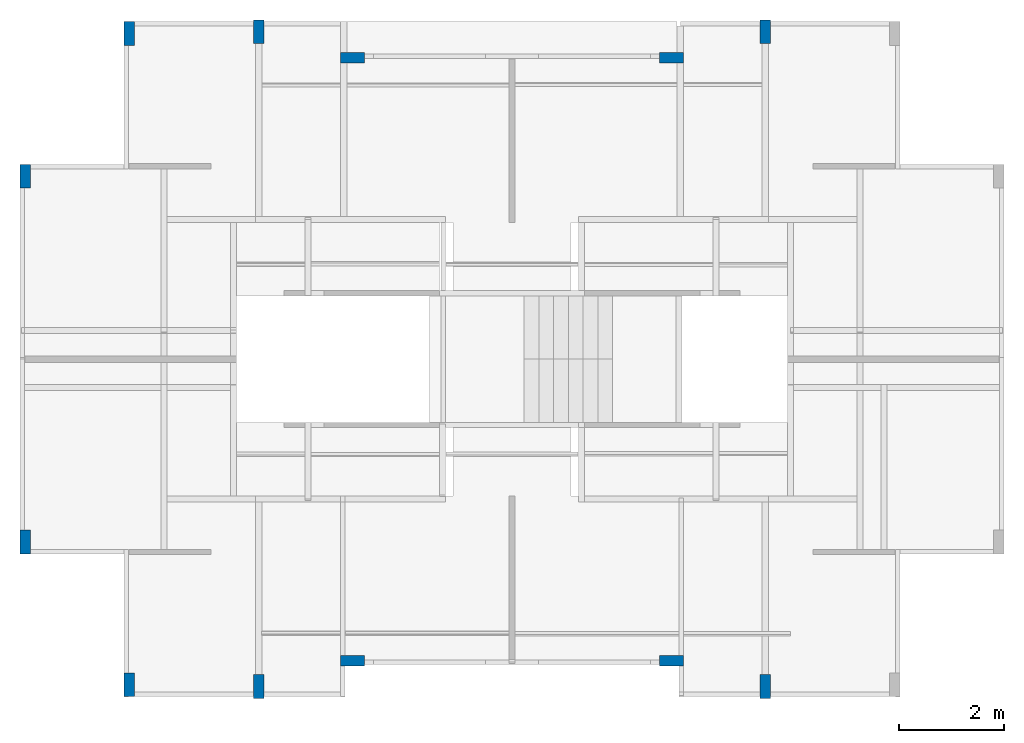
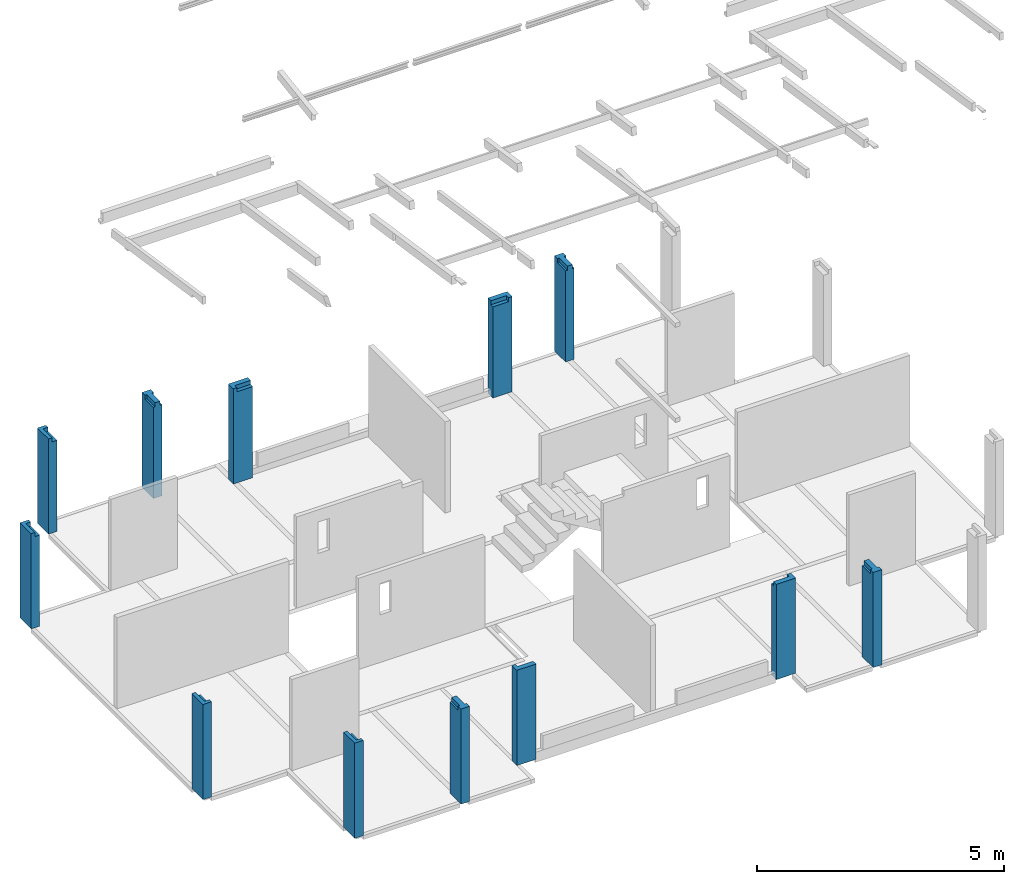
# One storey, part 7 of 9: 13 columns.
"""IFC4 building model written with IfcOpenShell, lengths in metres."""

from ifc_helpers import new_model, entity, si_unit, converted_unit, derived_unit, direction, frame, origin, place, context, subcontext, project, spatial, polygons, source, transform, mapped, material, type_object, type_shapes, element, save


model = new_model("IFC4")

# Units and contexts
model_context = context("Model", 3, precision=1e-05, world=origin(), true_north=direction((6.123031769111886e-17, 1.0)))
body_context = subcontext(model_context, "Body", "Model", "MODEL_VIEW")
ifc_project = project(units=[si_unit("LENGTHUNIT", "METRE"), si_unit("AREAUNIT", "SQUARE_METRE"), si_unit("VOLUMEUNIT", "CUBIC_METRE"), converted_unit("PLANEANGLEUNIT", "DEGREE", entity("IfcRatioMeasure", 0.017453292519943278), si_unit("PLANEANGLEUNIT", "RADIAN"), dimensions=[0, 0, 0, 0, 0, 0, 0]), si_unit("MASSUNIT", "GRAM", prefix="KILO"), derived_unit("MASSDENSITYUNIT", [(si_unit("MASSUNIT", "GRAM", prefix="KILO"), 1), (si_unit("LENGTHUNIT", "METRE"), -3)]), derived_unit("IONCONCENTRATIONUNIT", [(si_unit("MASSUNIT", "GRAM", prefix="KILO"), 1), (si_unit("LENGTHUNIT", "METRE"), -3)]), derived_unit("MOMENTOFINERTIAUNIT", [(si_unit("LENGTHUNIT", "METRE"), 4)]), si_unit("TIMEUNIT", "SECOND"), si_unit("FREQUENCYUNIT", "HERTZ"), si_unit("THERMODYNAMICTEMPERATUREUNIT", "DEGREE_CELSIUS"), derived_unit("THERMALTRANSMITTANCEUNIT", [(si_unit("MASSUNIT", "GRAM", prefix="KILO"), 1), (si_unit("THERMODYNAMICTEMPERATUREUNIT", "KELVIN"), -1), (si_unit("TIMEUNIT", "SECOND"), -3)]), derived_unit("THERMALCONDUCTANCEUNIT", [(si_unit("MASSUNIT", "GRAM", prefix="KILO"), 1), (si_unit("THERMODYNAMICTEMPERATUREUNIT", "KELVIN"), -1), (si_unit("TIMEUNIT", "SECOND"), -3), (si_unit("LENGTHUNIT", "METRE"), 1)]), derived_unit("VOLUMETRICFLOWRATEUNIT", [(si_unit("LENGTHUNIT", "METRE"), 3), (si_unit("TIMEUNIT", "SECOND"), -1)]), derived_unit("MASSFLOWRATEUNIT", [(si_unit("MASSUNIT", "GRAM", prefix="KILO"), 1), (si_unit("TIMEUNIT", "SECOND"), -1)]), derived_unit("ROTATIONALFREQUENCYUNIT", [(si_unit("TIMEUNIT", "SECOND"), -1)]), si_unit("ELECTRICCURRENTUNIT", "AMPERE"), si_unit("ELECTRICVOLTAGEUNIT", "VOLT"), si_unit("POWERUNIT", "WATT"), si_unit("FORCEUNIT", "NEWTON", prefix="KILO"), si_unit("ILLUMINANCEUNIT", "LUX"), si_unit("LUMINOUSFLUXUNIT", "LUMEN"), si_unit("LUMINOUSINTENSITYUNIT", "CANDELA"), derived_unit("USERDEFINED", [(si_unit("MASSUNIT", "GRAM", prefix="KILO"), -1), (si_unit("LENGTHUNIT", "METRE"), -2), (si_unit("TIMEUNIT", "SECOND"), 3), (si_unit("LUMINOUSFLUXUNIT", "LUMEN"), 1)]), derived_unit("USERDEFINED", [(si_unit("MASSUNIT", "GRAM", prefix="KILO"), 1), (si_unit("TIMEUNIT", "SECOND"), -3), (si_unit("LENGTHUNIT", "METRE"), 3), (si_unit("ELECTRICCURRENTUNIT", "AMPERE"), -2)]), derived_unit("SOUNDPOWERUNIT", [(si_unit("MASSUNIT", "GRAM", prefix="KILO"), 1), (si_unit("TIMEUNIT", "SECOND"), -3), (si_unit("LENGTHUNIT", "METRE"), 2)]), derived_unit("SOUNDPRESSUREUNIT", [(si_unit("MASSUNIT", "GRAM", prefix="KILO"), 1), (si_unit("LENGTHUNIT", "METRE"), -1), (si_unit("TIMEUNIT", "SECOND"), -2)]), derived_unit("LINEARVELOCITYUNIT", [(si_unit("LENGTHUNIT", "METRE"), 1), (si_unit("TIMEUNIT", "SECOND"), -1)]), si_unit("PRESSUREUNIT", "PASCAL"), derived_unit("USERDEFINED", [(si_unit("MASSUNIT", "GRAM", prefix="KILO"), 1), (si_unit("LENGTHUNIT", "METRE"), -2), (si_unit("TIMEUNIT", "SECOND"), -2)]), derived_unit("LINEARFORCEUNIT", [(si_unit("MASSUNIT", "GRAM", prefix="KILO"), 1), (si_unit("TIMEUNIT", "SECOND"), -2)]), derived_unit("PLANARFORCEUNIT", [(si_unit("MASSUNIT", "GRAM", prefix="KILO"), 1), (si_unit("LENGTHUNIT", "METRE"), -1), (si_unit("TIMEUNIT", "SECOND"), -2)]), derived_unit("SPECIFICHEATCAPACITYUNIT", [(si_unit("THERMODYNAMICTEMPERATUREUNIT", "KELVIN"), -1), (si_unit("LENGTHUNIT", "METRE"), 2), (si_unit("TIMEUNIT", "SECOND"), -2)]), derived_unit("HEATINGVALUEUNIT", [(si_unit("LENGTHUNIT", "METRE"), 2), (si_unit("TIMEUNIT", "SECOND"), -2)]), derived_unit("VAPORPERMEABILITYUNIT", [(si_unit("LENGTHUNIT", "METRE"), -1), (si_unit("TIMEUNIT", "SECOND"), 1)]), derived_unit("DYNAMICVISCOSITYUNIT", [(si_unit("MASSUNIT", "GRAM", prefix="KILO"), 1), (si_unit("TIMEUNIT", "SECOND"), -1), (si_unit("LENGTHUNIT", "METRE"), -1)]), derived_unit("THERMALEXPANSIONCOEFFICIENTUNIT", [(si_unit("THERMODYNAMICTEMPERATUREUNIT", "KELVIN"), -1)]), derived_unit("MODULUSOFELASTICITYUNIT", [(si_unit("MASSUNIT", "GRAM", prefix="KILO"), 1), (si_unit("LENGTHUNIT", "METRE"), -1), (si_unit("TIMEUNIT", "SECOND"), -2)]), derived_unit("ISOTHERMALMOISTURECAPACITYUNIT", [(si_unit("LENGTHUNIT", "METRE"), 3), (si_unit("MASSUNIT", "GRAM", prefix="KILO"), -1)]), derived_unit("MOISTUREDIFFUSIVITYUNIT", [(si_unit("TIMEUNIT", "SECOND"), -1), (si_unit("LENGTHUNIT", "METRE"), 2)])], contexts=[model_context])

# Site, building, storey
site_placement = place(None, origin())
site = spatial("IfcSite", under=ifc_project, at=site_placement, Name="Default", CompositionType="ELEMENT")
building_placement = place(site_placement, origin())
building = spatial("IfcBuilding", under=site, at=building_placement, Name="Las nubes", CompositionType="ELEMENT")
storey_placement = place(building_placement, frame((0.0, 0.0, 2.3500000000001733)))
storey = spatial("IfcBuildingStorey", under=building, at=storey_placement, Name="PISO 2", CompositionType="ELEMENT", Elevation=2.3500000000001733)

# Columns
ifc_material = material(Name="Concrete, Cast-in-Place gray", Category="Materials")
column_type_1 = type_object("IfcColumnType", Name="M_Concrete-Rectangular-Column:300 x 450mm", PredefinedType="COLUMN", material=ifc_material)
shared_shape_1 = source(origin(), body_context, "Body", "Tessellation", [
    polygons([(0.19999999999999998, 0.45000000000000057, -5.414335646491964e-16), (0.19999999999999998, 5.414335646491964e-16, -5.414335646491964e-16), (0.0, 5.414335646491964e-16, -5.414335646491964e-16), (0.0, 0.45000000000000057, -5.414335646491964e-16), (0.19999999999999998, 0.45000000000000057, 2.2500000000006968), (0.19999999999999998, 0.45000000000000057, 2.350000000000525), (0.19999999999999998, 0.36499999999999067, 2.350000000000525), (0.19999999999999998, 0.36499999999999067, 2.2500000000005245), (0.19999999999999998, 5.414335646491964e-16, 2.2500000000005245), (0.08499999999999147, 5.414335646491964e-16, 2.2500000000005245), (0.08499999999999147, 5.414335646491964e-16, 2.350000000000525), (0.0, 5.414335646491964e-16, 2.350000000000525), (0.0, 5.414335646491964e-16, 2.2500000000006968), (0.0, 0.45000000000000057, 2.350000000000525), (0.08499999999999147, 0.36499999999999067, 2.350000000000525), (0.08499999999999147, 0.36499999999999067, 2.2500000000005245)], [[[1, 2, 3, 4]], [[2, 1, 5, 6, 7, 8, 9]], [[3, 2, 9, 10, 11, 12, 13]], [[4, 3, 13, 12, 14]], [[1, 4, 14, 6, 5]], [[14, 12, 11, 15, 7, 6]], [[8, 16, 10, 9]], [[16, 15, 11, 10]], [[15, 16, 8, 7]]], closed=True),
])
type_shapes(column_type_1, [shared_shape_1])
column_1_placement = place(storey_placement, frame((-0.027499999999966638, -3.175000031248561, 0.0)))
element("IfcColumn", 1, at=column_1_placement, inside=storey, type_object=column_type_1, material=ifc_material, Name="M_Concrete-Rectangular-Column:300 x 450mm", ObjectType="M_Concrete-Rectangular-Column:300 x 450mm", PredefinedType="COLUMN", context=body_context, shape_type="MappedRepresentation", body=[
    mapped(shared_shape_1, transform((0.0, 0.0, 0.0), scale=1.0)),
])
column_type_2 = type_object("IfcColumnType", Name="M_Concrete-Rectangular-Column:300 x 450mm", PredefinedType="COLUMN", material=ifc_material)
shared_shape_2 = source(origin(), body_context, "Body", "Tessellation", [
    polygons([(0.19999999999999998, 0.45000000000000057, -5.414335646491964e-16), (0.19999999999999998, 0.0, -5.414335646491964e-16), (0.0, 0.0, -5.414335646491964e-16), (0.0, 0.45000000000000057, -5.414335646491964e-16), (0.19999999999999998, 0.45000000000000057, 2.2500000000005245), (0.19999999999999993, 0.08499488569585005, 2.2500000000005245), (0.19999999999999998, 0.08499488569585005, 2.350000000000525), (0.19999999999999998, 0.0, 2.350000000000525), (0.19999999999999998, 0.0, 2.2500000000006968), (0.0, 0.0, 2.350000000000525), (0.0, 0.45000000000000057, 2.350000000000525), (0.0, 0.45000000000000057, 2.2500000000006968), (0.08500000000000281, 0.45000000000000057, 2.350000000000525), (0.08500000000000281, 0.45000000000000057, 2.2500000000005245), (0.08500000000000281, 0.08499488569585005, 2.350000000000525), (0.08500000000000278, 0.08499488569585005, 2.2500000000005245)], [[[1, 2, 3, 4]], [[2, 1, 5, 6, 7, 8, 9]], [[3, 2, 9, 8, 10]], [[4, 3, 10, 11, 12]], [[1, 4, 12, 11, 13, 14, 5]], [[10, 8, 7, 15, 13, 11]], [[14, 16, 6, 5]], [[16, 15, 7, 6]], [[15, 16, 14, 13]]], closed=True),
])
type_shapes(column_type_2, [shared_shape_2])
column_2_placement = place(storey_placement, frame((-0.02749999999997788, -10.124994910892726, 0.0)))
element("IfcColumn", 2, at=column_2_placement, inside=storey, type_object=column_type_2, material=ifc_material, Name="M_Concrete-Rectangular-Column:300 x 450mm", ObjectType="M_Concrete-Rectangular-Column:300 x 450mm", PredefinedType="COLUMN", context=body_context, shape_type="MappedRepresentation", body=[
    mapped(shared_shape_2, transform((0.0, 0.0, 0.0), scale=1.0)),
])
column_type_3 = type_object("IfcColumnType", Name="M_Concrete-Rectangular-Column:300 x 450mm", PredefinedType="COLUMN", material=ifc_material)
shared_shape_3 = source(origin(), body_context, "Body", "Tessellation", [
    polygons([(0.2, 0.45, -5.414335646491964e-16), (0.2, 6.767919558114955e-17, -5.414335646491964e-16), (0.0, 6.767919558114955e-17, -5.414335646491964e-16), (0.0, 0.45, -5.414335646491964e-16), (0.2, 0.45, 2.350000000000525), (0.2, 0.3649999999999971, 2.350000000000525), (0.2, 0.3649999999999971, 2.2500000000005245), (0.2, 6.767919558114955e-17, 2.2500000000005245), (0.08500000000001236, 6.767919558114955e-17, 2.2500000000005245), (0.08500000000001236, 6.767919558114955e-17, 2.350000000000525), (0.0, 6.767919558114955e-17, 2.350000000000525), (0.0, 6.767919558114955e-17, 2.2500000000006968), (0.0, 0.45, 2.350000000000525), (0.08500000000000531, 0.3649999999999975, 2.350000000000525), (0.08500000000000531, 0.3649999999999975, 2.2500000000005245)], [[[1, 2, 3, 4]], [[2, 1, 5, 6, 7, 8]], [[3, 2, 8, 9, 10, 11, 12]], [[4, 3, 12, 11, 13]], [[1, 4, 13, 5]], [[13, 11, 10, 14, 6, 5]], [[15, 9, 8, 7]], [[14, 15, 7, 6]], [[15, 14, 10, 9]]], closed=True),
])
type_shapes(column_type_3, [shared_shape_3])
column_3_placement = place(storey_placement, frame((1.94749999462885, -0.46000002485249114, 0.0)))
element("IfcColumn", 3, at=column_3_placement, inside=storey, type_object=column_type_3, material=ifc_material, Name="M_Concrete-Rectangular-Column:300 x 450mm", ObjectType="M_Concrete-Rectangular-Column:300 x 450mm", PredefinedType="COLUMN", context=body_context, shape_type="MappedRepresentation", body=[
    mapped(shared_shape_3, transform((0.0, 0.0, 0.0), scale=1.0)),
])
column_type_4 = type_object("IfcColumnType", Name="M_Concrete-Rectangular-Column:300 x 450mm", PredefinedType="COLUMN", material=ifc_material)
shared_shape_4 = source(origin(), body_context, "Body", "Tessellation", [
    polygons([(0.2, 0.45000000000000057, -5.414335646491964e-16), (0.2, 6.09112760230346e-16, -5.414335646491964e-16), (0.0, 6.09112760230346e-16, -5.414335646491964e-16), (0.0, 0.45000000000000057, -5.414335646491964e-16), (0.2, 0.45000000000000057, 2.350000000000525), (0.2, 0.42002052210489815, 2.350000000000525), (0.2, 0.3350000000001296, 2.350000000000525), (0.2, 0.3350000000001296, 2.2500000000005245), (0.2, 6.09112760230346e-16, 2.2500000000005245), (0.15749999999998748, 3.383959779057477e-16, 2.2500000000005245), (0.15749999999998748, 6.09112760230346e-16, 2.350000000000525), (0.04249999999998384, 6.09112760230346e-16, 2.350000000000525), (0.04249999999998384, 6.09112760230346e-16, 2.2500000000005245), (0.0, 6.09112760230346e-16, 2.2500000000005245), (0.0, 0.33500000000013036, 2.2500000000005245), (0.0, 0.33500000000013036, 2.350000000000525), (0.0, 0.4200205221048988, 2.350000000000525), (0.0, 0.45000000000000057, 2.350000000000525), (0.042499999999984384, 0.3350000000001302, 2.350000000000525), (0.15749999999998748, 0.3350000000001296, 2.350000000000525), (0.042499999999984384, 0.3350000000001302, 2.2500000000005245), (0.15749999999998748, 0.3350000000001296, 2.2500000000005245)], [[[1, 2, 3, 4]], [[2, 1, 5, 6, 7, 8, 9]], [[3, 2, 9, 10, 11, 12, 13, 14]], [[4, 3, 14, 15, 16, 17, 18]], [[1, 4, 18, 5]], [[5, 18, 17, 16, 19, 12, 11, 20, 7, 6]], [[13, 21, 15, 14]], [[21, 19, 16, 15]], [[19, 21, 13, 12]], [[8, 22, 10, 9]], [[22, 20, 11, 10]], [[20, 22, 8, 7]]], closed=True),
])
type_shapes(column_type_4, [shared_shape_4])
column_4_placement = place(storey_placement, frame((4.409999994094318, -0.4300000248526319, 0.0)))
element("IfcColumn", 4, at=column_4_placement, inside=storey, type_object=column_type_4, material=ifc_material, Name="M_Concrete-Rectangular-Column:300 x 450mm", ObjectType="M_Concrete-Rectangular-Column:300 x 450mm", PredefinedType="COLUMN", context=body_context, shape_type="MappedRepresentation", body=[
    mapped(shared_shape_4, transform((0.0, 0.0, 0.0), scale=1.0)),
])
column_type_5 = type_object("IfcColumnType", Name="M_Concrete-Rectangular-Column:300 x 450mm", PredefinedType="COLUMN", material=ifc_material)
shared_shape_5 = source(origin(), body_context, "Body", "Tessellation", [
    polygons([(2.1657342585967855e-15, 0.20000000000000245, -5.414335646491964e-16), (0.45000000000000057, 0.2, -5.414335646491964e-16), (0.45000000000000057, 0.0, -5.414335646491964e-16), (1.0828671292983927e-15, 2.436451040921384e-15, -5.414335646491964e-16), (1.0828671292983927e-15, 0.20000000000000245, 2.250000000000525), (2.1657342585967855e-15, 0.20000000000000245, 2.350000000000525), (0.08500000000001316, 0.2000000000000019, 2.350000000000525), (0.45000000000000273, 0.2, 2.350000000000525), (0.45000000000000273, 0.08500000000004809, 2.350000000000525), (0.45000000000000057, 0.08500000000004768, 2.2500000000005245), (0.45000000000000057, 0.0, 2.2500000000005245), (0.08500000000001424, 1.7596590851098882e-15, 2.2500000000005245), (0.08500000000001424, 2.0303758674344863e-15, 2.350000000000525), (1.0828671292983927e-15, 2.436451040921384e-15, 2.350000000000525), (1.0828671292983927e-15, 2.436451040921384e-15, 2.250000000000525), (0.08500000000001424, 0.08500000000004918, 2.350000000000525), (0.08500000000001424, 0.08500000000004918, 2.2500000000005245)], [[[1, 2, 3, 4]], [[2, 1, 5, 6, 7, 8]], [[3, 2, 8, 9, 10, 11]], [[4, 3, 11, 12, 13, 14, 15]], [[1, 4, 15, 14, 6, 5]], [[8, 7, 6, 14, 13, 16, 9]], [[10, 17, 12, 11]], [[17, 16, 13, 12]], [[16, 17, 10, 9]]], closed=True),
])
type_shapes(column_type_5, [shared_shape_5])
column_5_placement = place(storey_placement, frame((6.067499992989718, -0.7950000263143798, 0.0)))
element("IfcColumn", 5, at=column_5_placement, inside=storey, type_object=column_type_5, material=ifc_material, Name="M_Concrete-Rectangular-Column:300 x 450mm", ObjectType="M_Concrete-Rectangular-Column:300 x 450mm", PredefinedType="COLUMN", context=body_context, shape_type="MappedRepresentation", body=[
    mapped(shared_shape_5, transform((0.0, 0.0, 0.0), scale=1.0)),
])
column_type_6 = type_object("IfcColumnType", Name="M_Concrete-Rectangular-Column:300 x 450mm", PredefinedType="COLUMN", material=ifc_material)
shared_shape_6 = source(origin(), body_context, "Body", "Tessellation", [
    polygons([(0.0, 6.09112760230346e-16, -5.414335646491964e-16), (0.0, 0.45000000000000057, -5.414335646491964e-16), (0.2, 0.45000000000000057, -5.414335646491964e-16), (0.2, 6.09112760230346e-16, -5.414335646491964e-16), (0.0, 6.09112760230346e-16, 2.2500000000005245), (0.0, 0.3350000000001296, 2.2500000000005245), (0.0, 0.3350000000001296, 2.350000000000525), (0.0, 0.41999999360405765, 2.350000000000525), (0.0, 0.45000000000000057, 2.350000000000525), (0.2, 5.414335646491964e-16, 2.2500000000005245), (0.15749999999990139, 3.383959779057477e-16, 2.2500000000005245), (0.15749999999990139, 5.414335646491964e-16, 2.350000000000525), (0.04249999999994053, 6.09112760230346e-16, 2.350000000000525), (0.04249999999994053, 3.383959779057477e-16, 2.2500000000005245), (0.2, 0.45000000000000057, 2.350000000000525), (0.2, 0.41999999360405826, 2.350000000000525), (0.2, 0.33500000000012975, 2.350000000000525), (0.2, 0.33500000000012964, 2.2500000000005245), (0.04249999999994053, 0.3350000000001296, 2.350000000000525), (0.15749999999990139, 0.3350000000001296, 2.350000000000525), (0.04249999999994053, 0.3350000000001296, 2.2500000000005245), (0.15749999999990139, 0.3350000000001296, 2.2500000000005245)], [[[1, 2, 3, 4]], [[2, 1, 5, 6, 7, 8, 9]], [[1, 4, 10, 11, 12, 13, 14, 5]], [[4, 3, 15, 16, 17, 18, 10]], [[3, 2, 9, 15]], [[15, 9, 8, 7, 19, 13, 12, 20, 17, 16]], [[14, 21, 6, 5]], [[21, 19, 7, 6]], [[19, 21, 14, 13]], [[18, 22, 11, 10]], [[20, 22, 18, 17]], [[22, 20, 12, 11]]], closed=True),
])
type_shapes(column_type_6, [shared_shape_6])
column_6_placement = place(storey_placement, frame((14.035000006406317, -0.4300000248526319, 0.0)))
element("IfcColumn", 6, at=column_6_placement, inside=storey, type_object=column_type_6, material=ifc_material, Name="M_Concrete-Rectangular-Column:300 x 450mm", ObjectType="M_Concrete-Rectangular-Column:300 x 450mm", PredefinedType="COLUMN", context=body_context, shape_type="MappedRepresentation", body=[
    mapped(shared_shape_6, transform((0.0, 0.0, 0.0), scale=1.0)),
])
column_type_7 = type_object("IfcColumnType", Name="M_Concrete-Rectangular-Column:300 x 450mm", PredefinedType="COLUMN", material=ifc_material)
shared_shape_7 = source(origin(), body_context, "Body", "Tessellation", [
    polygons([(0.0, 0.2, -5.414335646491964e-16), (0.4500000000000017, 0.20000000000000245, -5.414335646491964e-16), (0.4500000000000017, 2.436451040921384e-15, -5.414335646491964e-16), (0.0, 0.0, -5.414335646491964e-16), (0.0, 0.2, 2.350000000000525), (0.364999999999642, 0.2000000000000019, 2.350000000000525), (0.4500000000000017, 0.20000000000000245, 2.350000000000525), (0.4500000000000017, 0.20000000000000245, 2.250000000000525), (0.0, 0.0, 2.2500000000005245), (0.0, 0.08500000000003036, 2.2500000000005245), (0.0, 0.08500000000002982, 2.350000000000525), (0.4500000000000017, 2.436451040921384e-15, 2.250000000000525), (0.4500000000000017, 2.436451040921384e-15, 2.350000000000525), (0.36499999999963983, 2.0303758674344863e-15, 2.350000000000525), (0.36499999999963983, 2.1657342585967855e-15, 2.2500000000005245), (0.36499999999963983, 0.08500000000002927, 2.350000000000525), (0.36499999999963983, 0.08500000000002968, 2.2500000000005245)], [[[1, 2, 3, 4]], [[2, 1, 5, 6, 7, 8]], [[1, 4, 9, 10, 11, 5]], [[4, 3, 12, 13, 14, 15, 9]], [[3, 2, 8, 7, 13, 12]], [[7, 6, 5, 11, 16, 14, 13]], [[15, 17, 10, 9]], [[17, 16, 11, 10]], [[16, 17, 15, 14]]], closed=True),
])
type_shapes(column_type_7, [shared_shape_7])
column_7_placement = place(storey_placement, frame((12.127500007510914, -0.7950000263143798, 0.0)))
element("IfcColumn", 7, at=column_7_placement, inside=storey, type_object=column_type_7, material=ifc_material, Name="M_Concrete-Rectangular-Column:300 x 450mm", ObjectType="M_Concrete-Rectangular-Column:300 x 450mm", PredefinedType="COLUMN", context=body_context, shape_type="MappedRepresentation", body=[
    mapped(shared_shape_7, transform((0.0, 0.0, 0.0), scale=1.0)),
])
column_type_8 = type_object("IfcColumnType", Name="M_Concrete-Rectangular-Column:300 x 450mm", PredefinedType="COLUMN", material=ifc_material)
shared_shape_8 = source(origin(), body_context, "Body", "Tessellation", [
    polygons([(0.20000000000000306, 0.4500000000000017, -5.414335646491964e-16), (0.19999999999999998, 2.1657342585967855e-15, -5.414335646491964e-16), (4.229949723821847e-18, 2.1657342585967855e-15, -5.414335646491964e-16), (3.0794033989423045e-15, 0.4500000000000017, -5.414335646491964e-16), (0.20000000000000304, 0.45000000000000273, 2.2500000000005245), (0.2000000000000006, 0.08499999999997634, 2.2500000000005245), (0.2000000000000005, 0.08499999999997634, 2.350000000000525), (0.19999999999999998, 0.0, 2.350000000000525), (3.0751734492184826e-15, 0.45000000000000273, 2.2500000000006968), (3.0794033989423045e-15, 0.4500000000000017, 2.350000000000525), (0.08500000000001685, 0.4500000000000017, 2.350000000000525), (0.08500000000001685, 0.4500000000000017, 2.2500000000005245), (4.229949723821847e-18, 2.1657342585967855e-15, 2.350000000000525), (0.08500000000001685, 0.08499999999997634, 2.350000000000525), (0.08500000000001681, 0.08499999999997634, 2.2500000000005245)], [[[1, 2, 3, 4]], [[2, 1, 5, 6, 7, 8]], [[1, 4, 9, 10, 11, 12, 5]], [[4, 3, 13, 10, 9]], [[3, 2, 8, 13]], [[10, 13, 8, 7, 14, 11]], [[12, 15, 6, 5]], [[15, 14, 7, 6]], [[14, 15, 12, 11]]], closed=True),
])
type_shapes(column_type_8, [shared_shape_8])
column_8_placement = place(storey_placement, frame((-0.027499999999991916, -10.125000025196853, 0.0)))
element("IfcColumn", 8, at=column_8_placement, inside=storey, type_object=column_type_8, material=ifc_material, Name="M_Concrete-Rectangular-Column:300 x 450mm", ObjectType="M_Concrete-Rectangular-Column:300 x 450mm", PredefinedType="COLUMN", context=body_context, shape_type="MappedRepresentation", body=[
    mapped(shared_shape_8, transform((0.0, 0.0, 0.0), scale=1.0)),
])
column_type_9 = type_object("IfcColumnType", Name="M_Concrete-Rectangular-Column:300 x 450mm", PredefinedType="COLUMN", material=ifc_material)
shared_shape_9 = source(origin(), body_context, "Body", "Tessellation", [
    polygons([(0.20000000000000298, 0.4500000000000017, -5.414335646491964e-16), (0.19999999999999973, 0.0, -5.414335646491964e-16), (-2.707167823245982e-16, 2.1657342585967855e-15, -5.414335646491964e-16), (2.97788460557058e-15, 0.4500000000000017, -5.414335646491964e-16), (0.20000000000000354, 0.45000000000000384, 2.2500000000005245), (0.20000000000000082, 0.08499999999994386, 2.2500000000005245), (0.20000000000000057, 0.08499999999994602, 2.350000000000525), (0.19999999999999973, 0.0, 2.350000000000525), (0.2, 2.1657342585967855e-15, 2.2500000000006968), (3.2486013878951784e-15, 0.45000000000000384, 2.2500000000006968), (2.97788460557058e-15, 0.4500000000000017, 2.350000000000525), (0.08500000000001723, 0.4500000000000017, 2.350000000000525), (0.08500000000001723, 0.45000000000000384, 2.2500000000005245), (-2.707167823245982e-16, 2.1657342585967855e-15, 2.350000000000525), (0.08500000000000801, 0.08499999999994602, 2.350000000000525), (0.08500000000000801, 0.08499999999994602, 2.2500000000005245)], [[[1, 2, 3, 4]], [[2, 1, 5, 6, 7, 8, 9]], [[1, 4, 10, 11, 12, 13, 5]], [[4, 3, 14, 11, 10]], [[3, 2, 9, 8, 14]], [[11, 14, 8, 7, 15, 12]], [[16, 6, 5, 13]], [[16, 15, 7, 6]], [[15, 16, 13, 12]]], closed=True),
])
type_shapes(column_type_9, [shared_shape_9])
column_9_placement = place(storey_placement, frame((1.9474999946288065, -12.840000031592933, 0.0)))
element("IfcColumn", 9, at=column_9_placement, inside=storey, type_object=column_type_9, material=ifc_material, Name="M_Concrete-Rectangular-Column:300 x 450mm", ObjectType="M_Concrete-Rectangular-Column:300 x 450mm", PredefinedType="COLUMN", context=body_context, shape_type="MappedRepresentation", body=[
    mapped(shared_shape_9, transform((0.0, 0.0, 0.0), scale=1.0)),
])
column_type_10 = type_object("IfcColumnType", Name="M_Concrete-Rectangular-Column:300 x 450mm", PredefinedType="COLUMN", material=ifc_material)
shared_shape_10 = source(origin(), body_context, "Body", "Tessellation", [
    polygons([(0.20000000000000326, 0.4499999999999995, -5.414335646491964e-16), (0.2, -2.1657342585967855e-15, -5.414335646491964e-16), (0.0, 0.0, -5.414335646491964e-16), (3.2486013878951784e-15, 0.4499999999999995, -5.414335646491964e-16), (0.20000000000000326, 0.4499999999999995, 2.2500000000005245), (0.2000000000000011, 0.11499999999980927, 2.2500000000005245), (0.20000000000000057, 0.11499999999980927, 2.350000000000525), (0.2, 0.029999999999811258, 2.350000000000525), (0.2, -2.1657342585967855e-15, 2.350000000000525), (3.2486013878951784e-15, 0.4499999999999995, 2.2500000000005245), (0.042499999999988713, 0.4500000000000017, 2.2500000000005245), (0.04249999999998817, 0.4499999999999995, 2.350000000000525), (0.15750000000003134, 0.4499999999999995, 2.350000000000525), (0.15750000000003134, 0.4500000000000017, 2.2500000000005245), (0.0, 0.0, 2.350000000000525), (0.0, 0.029999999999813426, 2.350000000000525), (5.414335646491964e-16, 0.1149999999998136, 2.350000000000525), (5.414335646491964e-16, 0.1149999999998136, 2.2500000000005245), (0.15750000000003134, 0.11499999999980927, 2.350000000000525), (0.04249999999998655, 0.1149999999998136, 2.350000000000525), (0.04249999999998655, 0.1149999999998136, 2.2500000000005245), (0.15750000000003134, 0.11499999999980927, 2.2500000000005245)], [[[1, 2, 3, 4]], [[2, 1, 5, 6, 7, 8, 9]], [[1, 4, 10, 11, 12, 13, 14, 5]], [[4, 3, 15, 16, 17, 18, 10]], [[3, 2, 9, 15]], [[15, 9, 8, 7, 19, 13, 12, 20, 17, 16]], [[18, 21, 11, 10]], [[20, 21, 18, 17]], [[21, 20, 12, 11]], [[14, 22, 6, 5]], [[22, 19, 7, 6]], [[19, 22, 14, 13]]], closed=True),
])
type_shapes(column_type_10, [shared_shape_10])
column_10_placement = place(storey_placement, frame((4.4099999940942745, -12.870000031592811, 0.0)))
element("IfcColumn", 10, at=column_10_placement, inside=storey, type_object=column_type_10, material=ifc_material, Name="M_Concrete-Rectangular-Column:300 x 450mm", ObjectType="M_Concrete-Rectangular-Column:300 x 450mm", PredefinedType="COLUMN", context=body_context, shape_type="MappedRepresentation", body=[
    mapped(shared_shape_10, transform((0.0, 0.0, 0.0), scale=1.0)),
])
column_type_11 = type_object("IfcColumnType", Name="M_Concrete-Rectangular-Column:300 x 450mm", PredefinedType="COLUMN", material=ifc_material)
shared_shape_11 = source(origin(), body_context, "Body", "Tessellation", [
    polygons([(0.4499999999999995, 0.0, -5.414335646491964e-16), (0.0, 0.0, -5.414335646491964e-16), (0.0, 0.2, -5.414335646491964e-16), (0.4499999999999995, 0.2, -5.414335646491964e-16), (0.4499999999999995, 0.0, 2.350000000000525), (0.08500000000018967, 0.0, 2.350000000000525), (0.0, 0.0, 2.350000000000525), (0.0, 0.0, 2.250000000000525), (0.4499999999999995, 0.2, 2.2500000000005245), (0.4499999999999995, 0.11500000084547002, 2.2500000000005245), (0.4499999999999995, 0.11500000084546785, 2.350000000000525), (0.0, 0.2, 2.250000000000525), (0.0, 0.2, 2.350000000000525), (0.08500000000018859, 0.2, 2.350000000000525), (0.08500000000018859, 0.2, 2.2500000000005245), (0.08500000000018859, 0.11500000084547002, 2.350000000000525), (0.08500000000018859, 0.11500000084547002, 2.2500000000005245)], [[[1, 2, 3, 4]], [[2, 1, 5, 6, 7, 8]], [[1, 4, 9, 10, 11, 5]], [[4, 3, 12, 13, 14, 15, 9]], [[3, 2, 8, 7, 13, 12]], [[7, 6, 5, 11, 16, 14, 13]], [[15, 17, 10, 9]], [[17, 16, 11, 10]], [[16, 17, 15, 14]]], closed=True),
])
type_shapes(column_type_11, [shared_shape_11])
column_11_placement = place(storey_placement, frame((6.067499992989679, -12.255000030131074, 0.0)))
element("IfcColumn", 11, at=column_11_placement, inside=storey, type_object=column_type_11, material=ifc_material, Name="M_Concrete-Rectangular-Column:300 x 450mm", ObjectType="M_Concrete-Rectangular-Column:300 x 450mm", PredefinedType="COLUMN", context=body_context, shape_type="MappedRepresentation", body=[
    mapped(shared_shape_11, transform((0.0, 0.0, 0.0), scale=1.0)),
])
column_type_12 = type_object("IfcColumnType", Name="M_Concrete-Rectangular-Column:300 x 450mm", PredefinedType="COLUMN", material=ifc_material)
shared_shape_12 = source(origin(), body_context, "Body", "Tessellation", [
    polygons([(0.0, 0.0, -5.414335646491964e-16), (2.1657342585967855e-15, 0.4499999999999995, -5.414335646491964e-16), (0.20000000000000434, 0.4499999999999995, -5.414335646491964e-16), (0.2, -2.1657342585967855e-15, -5.414335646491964e-16), (0.0, 0.0, 2.350000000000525), (0.0, 0.030001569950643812, 2.350000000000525), (0.0, 0.11499999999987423, 2.350000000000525), (2.1657342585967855e-15, 0.11499999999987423, 2.2500000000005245), (6.497202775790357e-15, 0.4499999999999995, 2.2500000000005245), (0.04249999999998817, 0.4499999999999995, 2.2500000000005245), (0.04249999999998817, 0.4499999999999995, 2.350000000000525), (0.15749999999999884, 0.44999999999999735, 2.350000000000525), (0.15749999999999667, 0.4499999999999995, 2.2500000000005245), (0.20000000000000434, 0.4499999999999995, 2.2500000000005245), (0.2, 0.11499999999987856, 2.2500000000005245), (0.2, 0.11499999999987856, 2.350000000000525), (0.2, 0.03000156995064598, 2.350000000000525), (0.2, -2.1657342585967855e-15, 2.350000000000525), (0.15749999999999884, 0.11499999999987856, 2.350000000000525), (0.04249999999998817, 0.11499999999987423, 2.350000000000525), (0.04249999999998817, 0.11499999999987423, 2.2500000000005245), (0.15749999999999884, 0.11499999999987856, 2.2500000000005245)], [[[1, 2, 3, 4]], [[2, 1, 5, 6, 7, 8, 9]], [[3, 2, 9, 10, 11, 12, 13, 14]], [[4, 3, 14, 15, 16, 17, 18]], [[1, 4, 18, 5]], [[5, 18, 17, 16, 19, 12, 11, 20, 7, 6]], [[21, 10, 9, 8]], [[20, 21, 8, 7]], [[21, 20, 11, 10]], [[13, 22, 15, 14]], [[22, 19, 16, 15]], [[19, 22, 13, 12]]], closed=True),
])
type_shapes(column_type_12, [shared_shape_12])
column_12_placement = place(storey_placement, frame((14.035000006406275, -12.870000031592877, 0.0)))
element("IfcColumn", 12, at=column_12_placement, inside=storey, type_object=column_type_12, material=ifc_material, Name="M_Concrete-Rectangular-Column:300 x 450mm", ObjectType="M_Concrete-Rectangular-Column:300 x 450mm", PredefinedType="COLUMN", context=body_context, shape_type="MappedRepresentation", body=[
    mapped(shared_shape_12, transform((0.0, 0.0, 0.0), scale=1.0)),
])
column_type_13 = type_object("IfcColumnType", Name="M_Concrete-Rectangular-Column:300 x 450mm", PredefinedType="COLUMN", material=ifc_material)
shared_shape_13 = source(origin(), body_context, "Body", "Tessellation", [
    polygons([(0.45000000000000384, 0.0, -5.414335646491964e-16), (2.1657342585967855e-15, 6.497202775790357e-15, -5.414335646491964e-16), (6.497202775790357e-15, 0.2000000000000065, -5.414335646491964e-16), (0.450000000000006, 0.2, -5.414335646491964e-16), (0.4500000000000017, 0.0, 2.250000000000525), (0.45000000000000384, 0.0, 2.350000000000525), (0.3649999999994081, 0.0, 2.350000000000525), (2.1657342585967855e-15, 6.497202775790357e-15, 2.350000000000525), (4.331468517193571e-15, 0.1150000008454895, 2.350000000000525), (4.331468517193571e-15, 0.1150000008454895, 2.2500000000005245), (4.331468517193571e-15, 0.20000000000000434, 2.2500000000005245), (0.36499999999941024, 0.20000000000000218, 2.2500000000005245), (0.36499999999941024, 0.2, 2.350000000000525), (0.450000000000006, 0.2, 2.350000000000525), (0.450000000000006, 0.2, 2.250000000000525), (0.36499999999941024, 0.11500000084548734, 2.350000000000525), (0.36499999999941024, 0.11500000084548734, 2.2500000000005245)], [[[1, 2, 3, 4]], [[2, 1, 5, 6, 7, 8]], [[3, 2, 8, 9, 10, 11]], [[4, 3, 11, 12, 13, 14, 15]], [[1, 4, 15, 14, 6, 5]], [[8, 7, 6, 14, 13, 16, 9]], [[10, 17, 12, 11]], [[17, 16, 13, 12]], [[16, 17, 10, 9]]], closed=True),
])
type_shapes(column_type_13, [shared_shape_13])
column_13_placement = place(storey_placement, frame((12.127500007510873, -12.255000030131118, 0.0)))
element("IfcColumn", 13, at=column_13_placement, inside=storey, type_object=column_type_13, material=ifc_material, Name="M_Concrete-Rectangular-Column:300 x 450mm", ObjectType="M_Concrete-Rectangular-Column:300 x 450mm", PredefinedType="COLUMN", context=body_context, shape_type="MappedRepresentation", body=[
    mapped(shared_shape_13, transform((0.0, 0.0, 0.0), scale=1.0)),
])

save(model, "model.ifc")
